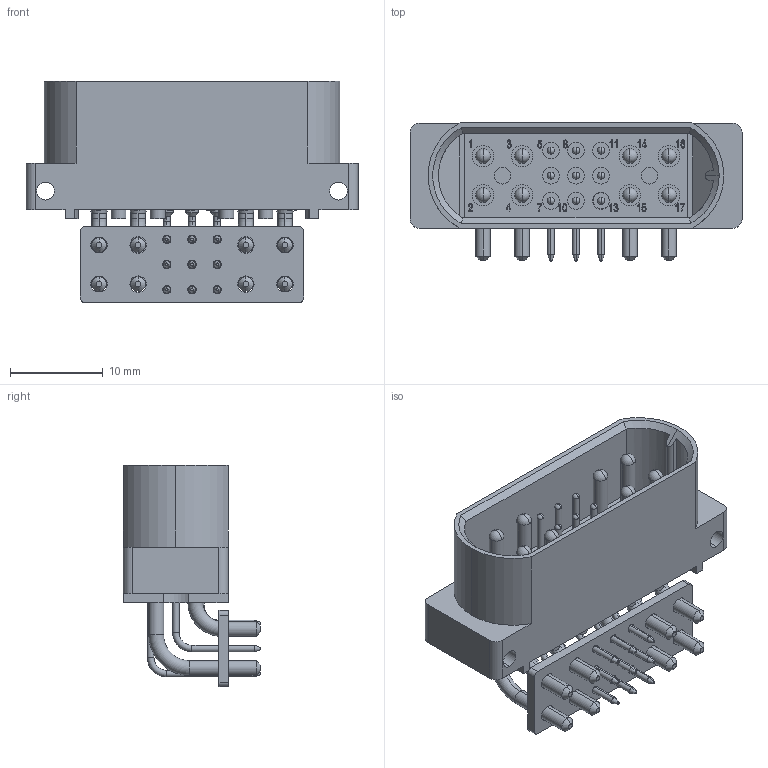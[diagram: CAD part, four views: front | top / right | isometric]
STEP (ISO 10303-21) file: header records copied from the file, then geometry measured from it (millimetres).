
FILE_DESCRIPTION (( 'STEP AP203' ), '1' );
FILE_NAME ('GFSH89M47H.STEP', '2025-01-07T06:17:22', ( '' ), ( '' ), 'SwSTEP 2.0', 'SolidWorks 2021', '' );
FILE_SCHEMA (( 'CONFIG_CONTROL_DESIGN' ));
Length unit declared in the file: millimetre
Products named in the file (1): GFSH89M47H
Bounding box: 35.7 x 14.8 x 23.8 mm (x, y, z)
Volume: 3084.2 mm3; surface area: 4687 mm2
Topology: 1 solids, 1 shells, 1160 faces, 2978 edges, 1910 vertices
Faces by surface type: plane 429, cylinder 297, bspline 243, cone 123, torus 34, sphere 34
Entity records: 47307 total; most frequent: CARTESIAN_POINT 20157, ORIENTED_EDGE 5888, DIRECTION 5089, EDGE_CURVE 2944, VERTEX_POINT 1910, AXIS2_PLACEMENT_3D 1776, LINE 1537, VECTOR 1537
